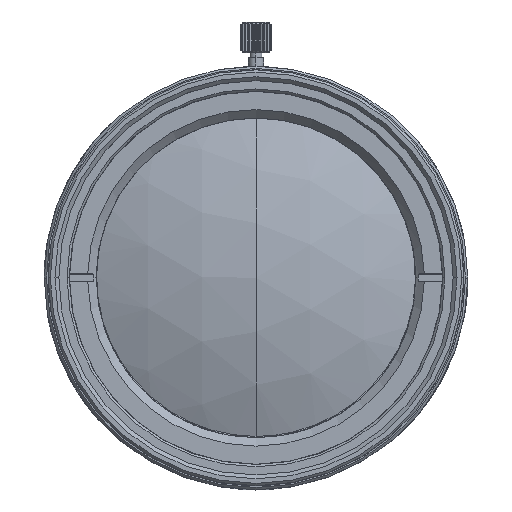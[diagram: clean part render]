
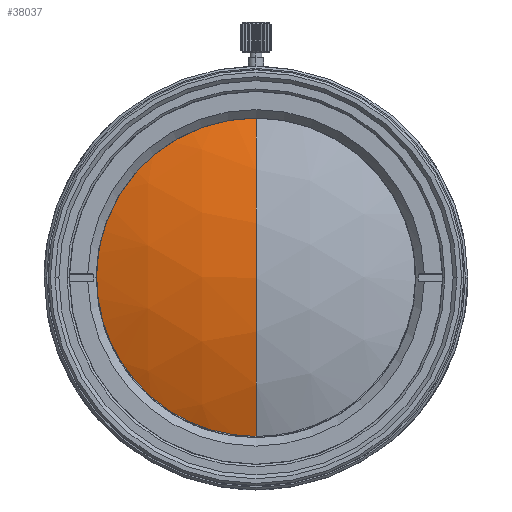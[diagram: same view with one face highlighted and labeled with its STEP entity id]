
A CAD part, top view. The second image highlights one B-rep face of the part: STEP entity #38037.
In plain terms, the highlighted spherical face has radius 54.5 mm.
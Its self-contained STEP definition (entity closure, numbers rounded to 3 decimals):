
#605 = CARTESIAN_POINT ( 'NONE',  ( -7.297, -19.268, 53.96 ) ) ;
#1129 = CIRCLE ( 'NONE', #34823, 54.5 ) ;
#1222 = CARTESIAN_POINT ( 'NONE',  ( -19.638, 6.764, 53.905 ) ) ;
#1304 = ORIENTED_EDGE ( 'NONE', *, *, #13937, .F. ) ;
#1832 = CARTESIAN_POINT ( 'NONE',  ( -0.675, 20.799, 53.875 ) ) ;
#2037 = CARTESIAN_POINT ( 'NONE',  ( -20.559, 2.468, 53.914 ) ) ;
#2406 = AXIS2_PLACEMENT_3D ( 'NONE', #35569, #17142, #26234 ) ;
#3026 = AXIS2_PLACEMENT_3D ( 'NONE', #33196, #23871, #32593 ) ;
#4309 = CARTESIAN_POINT ( 'NONE',  ( -16.455, 12.723, 53.893 ) ) ;
#4526 = CARTESIAN_POINT ( 'NONE',  ( 0., 20.799, 53.875 ) ) ;
#4728 = CARTESIAN_POINT ( 'NONE',  ( -19.601, -6.555, 53.933 ) ) ;
#5140 = CARTESIAN_POINT ( 'NONE',  ( -17.39, -11.111, 53.943 ) ) ;
#5494 = DIRECTION ( 'NONE',  ( 0., -1., 0. ) ) ;
#7221 = CARTESIAN_POINT ( 'NONE',  ( -12.052, -16.726, 53.955 ) ) ;
#7829 = CARTESIAN_POINT ( 'NONE',  ( -6.663, 19.743, 53.877 ) ) ;
#8030 = CARTESIAN_POINT ( 'NONE',  ( -18.091, -9.942, 53.941 ) ) ;
#10116 = CARTESIAN_POINT ( 'NONE',  ( -1.367, -20.585, 53.963 ) ) ;
#10528 = CARTESIAN_POINT ( 'NONE',  ( -4.695, -20.057, 53.962 ) ) ;
#10733 = CARTESIAN_POINT ( 'NONE',  ( -17.927, 10.462, 53.897 ) ) ;
#11145 = CARTESIAN_POINT ( 'NONE',  ( -15.588, -13.567, 53.948 ) ) ;
#11350 = CARTESIAN_POINT ( 'NONE',  ( -14.152, 15.218, 53.887 ) ) ;
#11551 = CARTESIAN_POINT ( 'NONE',  ( -17.579, 11.041, 53.896 ) ) ;
#12191 = CARTESIAN_POINT ( 'NONE',  ( 0., 0., 58. ) ) ;
#13431 = CARTESIAN_POINT ( 'NONE',  ( -5.351, -19.893, 53.961 ) ) ;
#13633 = CARTESIAN_POINT ( 'NONE',  ( -6.651, -19.499, 53.961 ) ) ;
#13838 = CARTESIAN_POINT ( 'NONE',  ( -20.359, 3.815, 53.911 ) ) ;
#13937 = EDGE_CURVE ( 'NONE', #29386, #29658, #35787, .T. ) ;
#14036 = CARTESIAN_POINT ( 'NONE',  ( -19.896, -5.584, 53.931 ) ) ;
#14449 = CARTESIAN_POINT ( 'NONE',  ( -20.153, -4.596, 53.929 ) ) ;
#15111 = ORIENTED_EDGE ( 'NONE', *, *, #22167, .T. ) ;
#16330 = CARTESIAN_POINT ( 'NONE',  ( -2.711, -20.451, 53.963 ) ) ;
#16923 = CIRCLE ( 'NONE', #3026, 54.5 ) ;
#16943 = CARTESIAN_POINT ( 'NONE',  ( -14.156, -14.999, 53.951 ) ) ;
#17142 = DIRECTION ( 'NONE',  ( -1., 0., 0. ) ) ;
#17147 = CARTESIAN_POINT ( 'NONE',  ( -12.603, 16.532, 53.884 ) ) ;
#17549 = SPHERICAL_SURFACE ( 'NONE', #2406, 54.5 ) ;
#17554 = CARTESIAN_POINT ( 'NONE',  ( -19.987, -5.257, 53.931 ) ) ;
#20050 = CARTESIAN_POINT ( 'NONE',  ( -19.146, -7.826, 53.936 ) ) ;
#20131 = CARTESIAN_POINT ( 'NONE',  ( 0., -20.585, 53.963 ) ) ;
#20251 = CARTESIAN_POINT ( 'NONE',  ( -15.6, 13.768, 53.89 ) ) ;
#20457 = CARTESIAN_POINT ( 'NONE',  ( -1.353, 20.766, 53.875 ) ) ;
#20654 = CARTESIAN_POINT ( 'NONE',  ( -3.385, 20.531, 53.876 ) ) ;
#21418 = CARTESIAN_POINT ( 'NONE',  ( 0., 0., 3.5 ) ) ;
#22167 = EDGE_CURVE ( 'NONE', #29386, #36884, #1129, .T. ) ;
#22944 = CARTESIAN_POINT ( 'NONE',  ( -10.365, -17.853, 53.957 ) ) ;
#23344 = CARTESIAN_POINT ( 'NONE',  ( -9.165, 18.671, 53.88 ) ) ;
#23549 = CARTESIAN_POINT ( 'NONE',  ( -20.659, 1.451, 53.917 ) ) ;
#23754 = CARTESIAN_POINT ( 'NONE',  ( -16.445, -12.525, 53.946 ) ) ;
#23871 = DIRECTION ( 'NONE',  ( 1., 0., 0. ) ) ;
#23959 = CARTESIAN_POINT ( 'NONE',  ( -20.691, -1.25, 53.922 ) ) ;
#24182 = EDGE_CURVE ( 'NONE', #29658, #36884, #16923, .T. ) ;
#26032 = CARTESIAN_POINT ( 'NONE',  ( -9.176, -18.488, 53.959 ) ) ;
#26234 = DIRECTION ( 'NONE',  ( 0., 1., 0. ) ) ;
#26239 = CARTESIAN_POINT ( 'NONE',  ( -12.6, -16.32, 53.954 ) ) ;
#26442 = CARTESIAN_POINT ( 'NONE',  ( -20.691, 0.774, 53.918 ) ) ;
#26648 = CARTESIAN_POINT ( 'NONE',  ( -13.648, 15.674, 53.886 ) ) ;
#26854 = CARTESIAN_POINT ( 'NONE',  ( -17.573, -10.822, 53.942 ) ) ;
#27064 = CARTESIAN_POINT ( 'NONE',  ( -12.061, 16.933, 53.883 ) ) ;
#27271 = CARTESIAN_POINT ( 'NONE',  ( -5.373, 20.135, 53.877 ) ) ;
#29359 = CARTESIAN_POINT ( 'NONE',  ( 0., -20.585, 53.963 ) ) ;
#29386 = VERTEX_POINT ( 'NONE', #20131 ) ;
#29564 = CARTESIAN_POINT ( 'NONE',  ( -20.56, -2.593, 53.925 ) ) ;
#29658 = VERTEX_POINT ( 'NONE', #39122 ) ;
#30176 = CARTESIAN_POINT ( 'NONE',  ( -2.712, 20.632, 53.876 ) ) ;
#30386 = CARTESIAN_POINT ( 'NONE',  ( -17.923, -10.237, 53.941 ) ) ;
#32593 = DIRECTION ( 'NONE',  ( 0., 0., -1. ) ) ;
#32668 = FACE_OUTER_BOUND ( 'NONE', #40096, .T. ) ;
#32672 = CARTESIAN_POINT ( 'NONE',  ( -18.861, 8.643, 53.901 ) ) ;
#32876 = CARTESIAN_POINT ( 'NONE',  ( -20.517, 2.808, 53.914 ) ) ;
#33196 = CARTESIAN_POINT ( 'NONE',  ( 0., 0., 3.5 ) ) ;
#34647 = ORIENTED_EDGE ( 'NONE', *, *, #24182, .F. ) ;
#34823 = AXIS2_PLACEMENT_3D ( 'NONE', #21418, #37354, #5494 ) ;
#35569 = CARTESIAN_POINT ( 'NONE',  ( 0., 0., 3.5 ) ) ;
#35787 = B_SPLINE_CURVE_WITH_KNOTS ( 'NONE', 3,
 ( #29359, #10116, #16330, #10528, #13431, #13633, #605, #26032, #22944, #7221, #26239, #38891, #16943, #11145, #23754, #5140, #26854, #30386, #8030, #36387, #20050, #4728, #14036, #17554, #14449, #39499, #29564, #23959, #26442, #23549, #2037, #32876, #36593, #13838, #39706, #1222, #32672, #39095, #10733, #11551, #4309, #20251, #11350, #26648, #17147, #27064, #39913, #39293, #23344, #36187, #7829, #27271, #20654, #30176, #20457, #1832, #4526 ),
 .UNSPECIFIED., .F., .F.,
 ( 4, 2, 2, 2, 2, 2, 2, 2, 2, 2, 1, 2, 2, 2, 2, 2, 2, 2, 2, 2, 2, 2, 2, 2, 2, 2, 2, 2, 4 ),
 ( 0., 0.004, 0.006, 0.008, 0.012, 0.014, 0.016, 0.02, 0.021, 0.022, 0.024, 0.026, 0.027, 0.028, 0.032, 0.034, 0.035, 0.036, 0.04, 0.042, 0.044, 0.049, 0.051, 0.053, 0.055, 0.057, 0.061, 0.063, 0.065 ),
 .UNSPECIFIED. ) ;
#36187 = CARTESIAN_POINT ( 'NONE',  ( -8.544, 18.964, 53.879 ) ) ;
#36387 = CARTESIAN_POINT ( 'NONE',  ( -18.569, -9.046, 53.939 ) ) ;
#36593 = CARTESIAN_POINT ( 'NONE',  ( -20.417, 3.481, 53.912 ) ) ;
#36884 = VERTEX_POINT ( 'NONE', #12191 ) ;
#37354 = DIRECTION ( 'NONE',  ( -1., 0., 0. ) ) ;
#38037 = ADVANCED_FACE ( 'NONE', ( #32668 ), #17549, .T. ) ;
#38891 = CARTESIAN_POINT ( 'NONE',  ( -13.655, -15.455, 53.952 ) ) ;
#39095 = CARTESIAN_POINT ( 'NONE',  ( -18.568, 9.263, 53.9 ) ) ;
#39122 = CARTESIAN_POINT ( 'NONE',  ( 0., 20.799, 53.875 ) ) ;
#39293 = CARTESIAN_POINT ( 'NONE',  ( -10.361, 18.03, 53.881 ) ) ;
#39499 = CARTESIAN_POINT ( 'NONE',  ( -20.228, -4.262, 53.929 ) ) ;
#39706 = CARTESIAN_POINT ( 'NONE',  ( -20.029, 5.474, 53.908 ) ) ;
#39913 = CARTESIAN_POINT ( 'NONE',  ( -10.941, 17.683, 53.882 ) ) ;
#40096 = EDGE_LOOP ( 'NONE', ( #1304, #15111, #34647 ) ) ;
